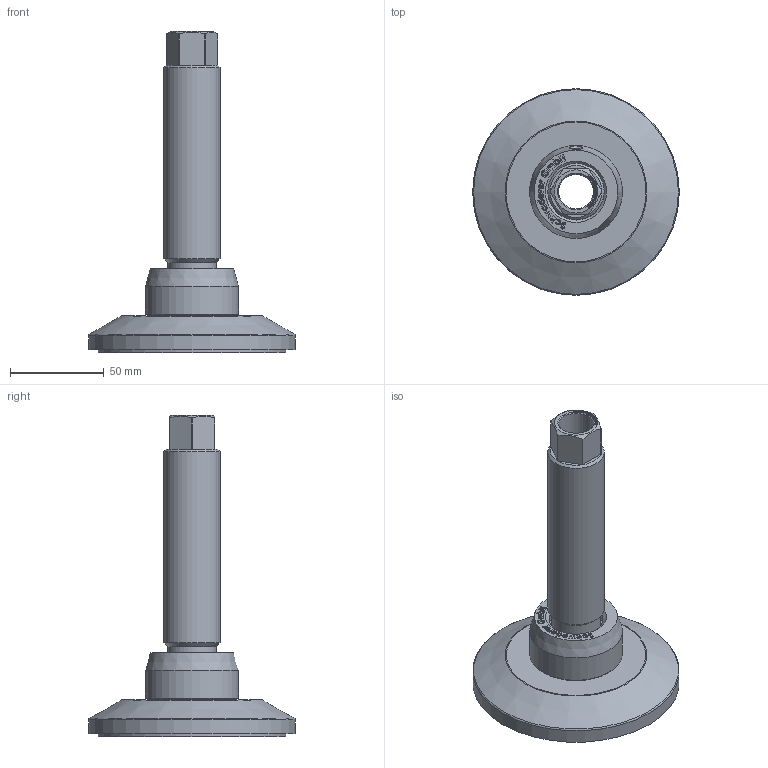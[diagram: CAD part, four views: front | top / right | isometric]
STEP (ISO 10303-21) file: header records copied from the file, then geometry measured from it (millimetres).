
FILE_DESCRIPTION(/* description */ ('JCM 100C - M30 - S6'),/* implementation_level */ '2;1');
FILE_NAME(/* name */ 'P:\CAD ab 2015\STP - Internetseite\JCMHD\JCMHD 100C - S - HSD145.stp',/* time_stamp */ '2021-10-01T08:54:16+02:00',/* author */ ('T. Rey'),/* organization */ ('Schwaderer GmbH Robert-Bosch-Str. 10 71563 Affalterbach'),/* preprocessor_version */ 'ST-DEVELOPER v18.1',/* originating_system */ 'Autodesk Inventor LT',/* authorisation */ '');
FILE_SCHEMA (('CONFIG_CONTROL_DESIGN'));
Length unit declared in the file: millimetre
Products named in the file (1): JCMHD 100C - S - HSD110
Bounding box: 110 x 110 x 170.9 mm (x, y, z)
Volume: 235087.9 mm3; surface area: 73230.1 mm2
Topology: 4 solids, 4 shells, 479 faces, 1300 edges, 869 vertices
Faces by surface type: plane 243, bspline 192, cylinder 23, cone 17, torus 3, sphere 1
Full cylindrical faces by diameter (mm): 5 x1, 18.5 x2, 25 x1, 26 x1, 26.5 x1, 27.5 x1, 28.5 x2, 30 x2, 31 x1, 49.5 x1, 100 x2, 110 x1
Entity records: 16599 total; most frequent: CARTESIAN_POINT 5618, ORIENTED_EDGE 2600, DIRECTION 1593, EDGE_CURVE 1300, VERTEX_POINT 869, LINE 781, VECTOR 781, EDGE_LOOP 529
